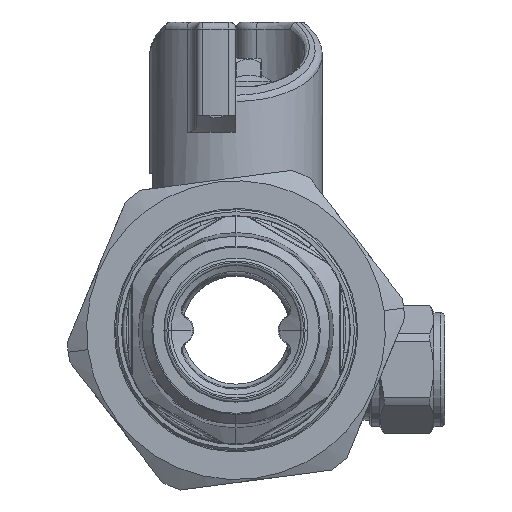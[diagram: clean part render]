
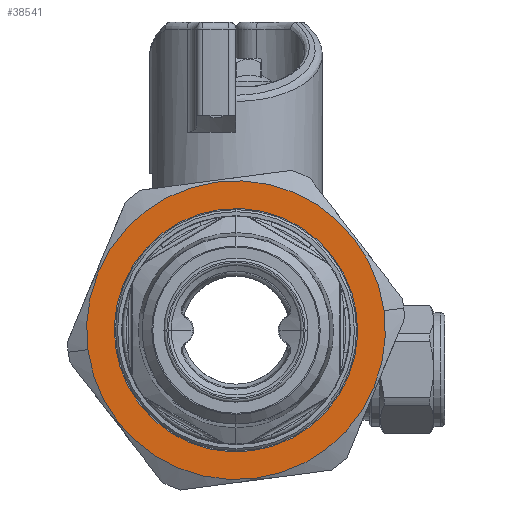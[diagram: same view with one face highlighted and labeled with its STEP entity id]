
A CAD part, front view. The second image highlights one B-rep face of the part: STEP entity #38541.
In plain terms, the highlighted planar face has unit normal (0, -1, 0).
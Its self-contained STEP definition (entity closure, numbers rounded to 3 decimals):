
#38541 = ADVANCED_FACE('',(#38542,#38607),#38557,.F.);
#38542 = FACE_BOUND('',#38543,.T.);
#38543 = EDGE_LOOP('',(#38544,#38580));
#38544 = ORIENTED_EDGE('',*,*,#38545,.F.);
#38545 = EDGE_CURVE('',#38546,#38548,#38550,.T.);
#38546 = VERTEX_POINT('',#38547);
#38547 = CARTESIAN_POINT('',(30.572,-9.4,-7.292));
#38548 = VERTEX_POINT('',#38549);
#38549 = CARTESIAN_POINT('',(-10.572,-9.4,-12.708));
#38550 = SURFACE_CURVE('',#38551,(#38556,#38568),.PCURVE_S1.);
#38551 = CIRCLE('',#38552,20.75);
#38552 = AXIS2_PLACEMENT_3D('',#38553,#38554,#38555);
#38553 = CARTESIAN_POINT('',(10.,-9.4,-10.));
#38554 = DIRECTION('',(0.,1.,0.));
#38555 = DIRECTION('',(0.991,-0.,0.131));
#38556 = PCURVE('',#38557,#38562);
#38557 = PLANE('',#38558);
#38558 = AXIS2_PLACEMENT_3D('',#38559,#38560,#38561);
#38559 = CARTESIAN_POINT('',(10.,-9.4,-10.));
#38560 = DIRECTION('',(0.,1.,0.));
#38561 = DIRECTION('',(0.991,-0.,0.131));
#38562 = DEFINITIONAL_REPRESENTATION('',(#38563),#38567);
#38563 = CIRCLE('',#38564,20.75);
#38564 = AXIS2_PLACEMENT_2D('',#38565,#38566);
#38565 = CARTESIAN_POINT('',(0.,0.));
#38566 = DIRECTION('',(1.,0.));
#38567 = ( GEOMETRIC_REPRESENTATION_CONTEXT(2) 
PARAMETRIC_REPRESENTATION_CONTEXT() REPRESENTATION_CONTEXT('2D SPACE',''
  ) );
#38568 = PCURVE('',#38569,#38574);
#38569 = CONICAL_SURFACE('',#38570,22.125,1.047);
#38570 = AXIS2_PLACEMENT_3D('',#38571,#38572,#38573);
#38571 = CARTESIAN_POINT('',(10.,-8.606,-10.));
#38572 = DIRECTION('',(0.,1.,0.));
#38573 = DIRECTION('',(-0.991,0.,-0.131));
#38574 = DEFINITIONAL_REPRESENTATION('',(#38575),#38579);
#38575 = LINE('',#38576,#38577);
#38576 = CARTESIAN_POINT('',(3.142,-0.794));
#38577 = VECTOR('',#38578,1.);
#38578 = DIRECTION('',(1.,0.));
#38579 = ( GEOMETRIC_REPRESENTATION_CONTEXT(2) 
PARAMETRIC_REPRESENTATION_CONTEXT() REPRESENTATION_CONTEXT('2D SPACE',''
  ) );
#38580 = ORIENTED_EDGE('',*,*,#38581,.F.);
#38581 = EDGE_CURVE('',#38548,#38546,#38582,.T.);
#38582 = SURFACE_CURVE('',#38583,(#38588,#38595),.PCURVE_S1.);
#38583 = CIRCLE('',#38584,20.75);
#38584 = AXIS2_PLACEMENT_3D('',#38585,#38586,#38587);
#38585 = CARTESIAN_POINT('',(10.,-9.4,-10.));
#38586 = DIRECTION('',(0.,1.,0.));
#38587 = DIRECTION('',(-0.991,0.,-0.131));
#38588 = PCURVE('',#38557,#38589);
#38589 = DEFINITIONAL_REPRESENTATION('',(#38590),#38594);
#38590 = CIRCLE('',#38591,20.75);
#38591 = AXIS2_PLACEMENT_2D('',#38592,#38593);
#38592 = CARTESIAN_POINT('',(0.,0.));
#38593 = DIRECTION('',(-1.,0.));
#38594 = ( GEOMETRIC_REPRESENTATION_CONTEXT(2) 
PARAMETRIC_REPRESENTATION_CONTEXT() REPRESENTATION_CONTEXT('2D SPACE',''
  ) );
#38595 = PCURVE('',#38596,#38601);
#38596 = CONICAL_SURFACE('',#38597,22.125,1.047);
#38597 = AXIS2_PLACEMENT_3D('',#38598,#38599,#38600);
#38598 = CARTESIAN_POINT('',(10.,-8.606,-10.));
#38599 = DIRECTION('',(0.,1.,0.));
#38600 = DIRECTION('',(-0.991,0.,-0.131));
#38601 = DEFINITIONAL_REPRESENTATION('',(#38602),#38606);
#38602 = LINE('',#38603,#38604);
#38603 = CARTESIAN_POINT('',(0.,-0.794));
#38604 = VECTOR('',#38605,1.);
#38605 = DIRECTION('',(1.,0.));
#38606 = ( GEOMETRIC_REPRESENTATION_CONTEXT(2) 
PARAMETRIC_REPRESENTATION_CONTEXT() REPRESENTATION_CONTEXT('2D SPACE',''
  ) );
#38607 = FACE_BOUND('',#38608,.T.);
#38608 = EDGE_LOOP('',(#38609,#38644));
#38609 = ORIENTED_EDGE('',*,*,#38610,.F.);
#38610 = EDGE_CURVE('',#38611,#38613,#38615,.T.);
#38611 = VERTEX_POINT('',#38612);
#38612 = CARTESIAN_POINT('',(26.755,-9.4,-7.794));
#38613 = VERTEX_POINT('',#38614);
#38614 = CARTESIAN_POINT('',(-6.755,-9.4,-12.206));
#38615 = SURFACE_CURVE('',#38616,(#38621,#38632),.PCURVE_S1.);
#38616 = CIRCLE('',#38617,16.9);
#38617 = AXIS2_PLACEMENT_3D('',#38618,#38619,#38620);
#38618 = CARTESIAN_POINT('',(10.,-9.4,-10.));
#38619 = DIRECTION('',(0.,-1.,0.));
#38620 = DIRECTION('',(0.991,0.,0.131));
#38621 = PCURVE('',#38557,#38622);
#38622 = DEFINITIONAL_REPRESENTATION('',(#38623),#38631);
#38623 = ( BOUNDED_CURVE() B_SPLINE_CURVE(2,(#38624,#38625,#38626,#38627
    ,#38628,#38629,#38630),.UNSPECIFIED.,.T.,.F.) 
B_SPLINE_CURVE_WITH_KNOTS((1,2,2,2,2,1),(-2.094,0.,
    2.094,4.189,6.283,8.378),
.UNSPECIFIED.) CURVE() GEOMETRIC_REPRESENTATION_ITEM() 
RATIONAL_B_SPLINE_CURVE((1.,0.5,1.,0.5,1.,0.5,1.)) REPRESENTATION_ITEM(
  '') );
#38624 = CARTESIAN_POINT('',(16.9,0.));
#38625 = CARTESIAN_POINT('',(16.9,-29.272));
#38626 = CARTESIAN_POINT('',(-8.45,-14.636));
#38627 = CARTESIAN_POINT('',(-33.8,0.));
#38628 = CARTESIAN_POINT('',(-8.45,14.636));
#38629 = CARTESIAN_POINT('',(16.9,29.272));
#38630 = CARTESIAN_POINT('',(16.9,0.));
#38631 = ( GEOMETRIC_REPRESENTATION_CONTEXT(2) 
PARAMETRIC_REPRESENTATION_CONTEXT() REPRESENTATION_CONTEXT('2D SPACE',''
  ) );
#38632 = PCURVE('',#38633,#38638);
#38633 = CYLINDRICAL_SURFACE('',#38634,16.9);
#38634 = AXIS2_PLACEMENT_3D('',#38635,#38636,#38637);
#38635 = CARTESIAN_POINT('',(10.,8.45,-10.));
#38636 = DIRECTION('',(0.,-1.,0.));
#38637 = DIRECTION('',(0.991,0.,0.131));
#38638 = DEFINITIONAL_REPRESENTATION('',(#38639),#38643);
#38639 = LINE('',#38640,#38641);
#38640 = CARTESIAN_POINT('',(0.,17.85));
#38641 = VECTOR('',#38642,1.);
#38642 = DIRECTION('',(1.,0.));
#38643 = ( GEOMETRIC_REPRESENTATION_CONTEXT(2) 
PARAMETRIC_REPRESENTATION_CONTEXT() REPRESENTATION_CONTEXT('2D SPACE',''
  ) );
#38644 = ORIENTED_EDGE('',*,*,#38645,.F.);
#38645 = EDGE_CURVE('',#38613,#38611,#38646,.T.);
#38646 = SURFACE_CURVE('',#38647,(#38652,#38663),.PCURVE_S1.);
#38647 = CIRCLE('',#38648,16.9);
#38648 = AXIS2_PLACEMENT_3D('',#38649,#38650,#38651);
#38649 = CARTESIAN_POINT('',(10.,-9.4,-10.));
#38650 = DIRECTION('',(0.,-1.,0.));
#38651 = DIRECTION('',(-0.991,-0.,-0.131));
#38652 = PCURVE('',#38557,#38653);
#38653 = DEFINITIONAL_REPRESENTATION('',(#38654),#38662);
#38654 = ( BOUNDED_CURVE() B_SPLINE_CURVE(2,(#38655,#38656,#38657,#38658
    ,#38659,#38660,#38661),.UNSPECIFIED.,.T.,.F.) 
B_SPLINE_CURVE_WITH_KNOTS((1,2,2,2,2,1),(-2.094,0.,
    2.094,4.189,6.283,8.378),
.UNSPECIFIED.) CURVE() GEOMETRIC_REPRESENTATION_ITEM() 
RATIONAL_B_SPLINE_CURVE((1.,0.5,1.,0.5,1.,0.5,1.)) REPRESENTATION_ITEM(
  '') );
#38655 = CARTESIAN_POINT('',(-16.9,0.));
#38656 = CARTESIAN_POINT('',(-16.9,29.272));
#38657 = CARTESIAN_POINT('',(8.45,14.636));
#38658 = CARTESIAN_POINT('',(33.8,0.));
#38659 = CARTESIAN_POINT('',(8.45,-14.636));
#38660 = CARTESIAN_POINT('',(-16.9,-29.272));
#38661 = CARTESIAN_POINT('',(-16.9,0.));
#38662 = ( GEOMETRIC_REPRESENTATION_CONTEXT(2) 
PARAMETRIC_REPRESENTATION_CONTEXT() REPRESENTATION_CONTEXT('2D SPACE',''
  ) );
#38663 = PCURVE('',#38664,#38669);
#38664 = CYLINDRICAL_SURFACE('',#38665,16.9);
#38665 = AXIS2_PLACEMENT_3D('',#38666,#38667,#38668);
#38666 = CARTESIAN_POINT('',(10.,8.45,-10.));
#38667 = DIRECTION('',(0.,-1.,0.));
#38668 = DIRECTION('',(0.991,0.,0.131));
#38669 = DEFINITIONAL_REPRESENTATION('',(#38670),#38674);
#38670 = LINE('',#38671,#38672);
#38671 = CARTESIAN_POINT('',(3.142,17.85));
#38672 = VECTOR('',#38673,1.);
#38673 = DIRECTION('',(1.,0.));
#38674 = ( GEOMETRIC_REPRESENTATION_CONTEXT(2) 
PARAMETRIC_REPRESENTATION_CONTEXT() REPRESENTATION_CONTEXT('2D SPACE',''
  ) );
